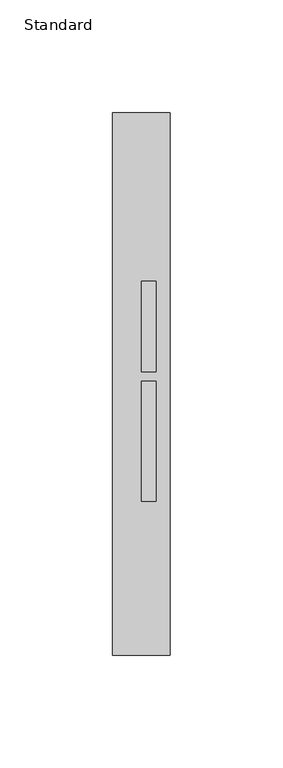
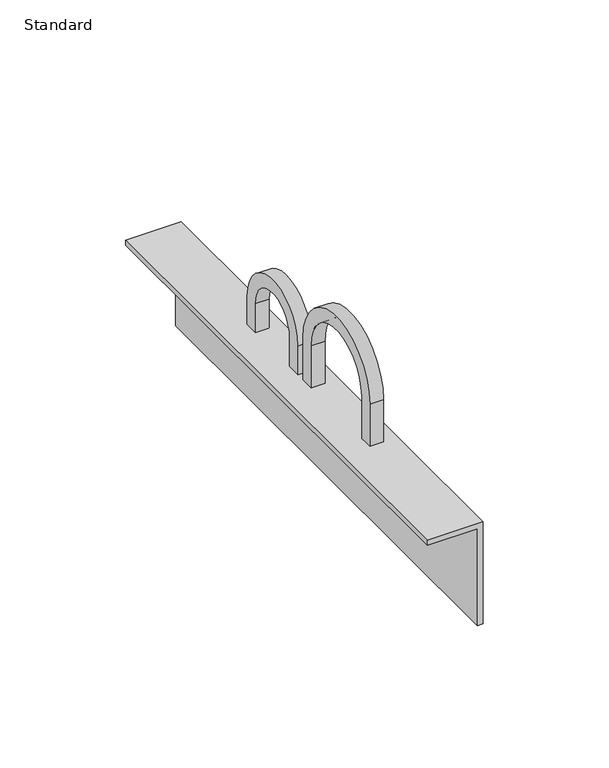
"""IFC4 building model written with IfcOpenShell, lengths in millimetres: cable carrier fitting geometry, End-Cablofil-Wire_Mesh_Cable_Tray-To_Conduit : Standard."""

from ifc_helpers import new_model, si_unit, point, frame, frame_2d, origin, place, context, project, spatial, polyline, circle_curve, trimmed, segment, composite_curve, outline, extrude, source, transform, mapped, element, save


def standard_2a561b38(model_context):
    return source(origin(), model_context, "Body", "SweptSolid", [
        extrude(outline(composite_curve([segment(trimmed(circle_curve(frame_2d((-25.4, -2.7178)), 26.543), [point((-51.943, -2.7178))], [point((1.143, -2.7178))], False, "CARTESIAN"), True, "CONTINUOUS"), segment(polyline([(1.143, -2.7178), (1.143, -25.4), (-5.207, -25.4), (-5.207, -2.7178)]), True, "CONTINUOUS"), segment(trimmed(circle_curve(frame_2d((-25.4, -2.7178)), 20.193), [point((-5.207, -2.7178))], [point((-45.593, -2.7178))], True, "CARTESIAN"), True, "CONTINUOUS"), segment(polyline([(-45.593, -2.7178), (-45.593, -25.4), (-51.943, -25.4), (-51.943, -2.7178)]), True, "CONTINUOUS")], self_intersect=False)), frame((-10.2108, 0.0, 0.0), z_axis=(1.0, 0.0, 0.0), x_axis=(0.0, 1.0, 0.0)), (0.0, 0.0, 1.0), 6.35),
        extrude(outline(composite_curve([segment(trimmed(circle_curve(frame_2d((25.4, -9.1948)), 20.066), [point((5.334, -9.1948))], [point((45.466, -9.1948))], False, "CARTESIAN"), True, "CONTINUOUS"), segment(polyline([(45.466, -9.1948), (45.466, -25.4), (39.116, -25.4), (39.116, -9.1948)]), True, "CONTINUOUS"), segment(trimmed(circle_curve(frame_2d((25.4, -9.1948)), 13.716), [point((39.116, -9.1948))], [point((11.684, -9.1948))], True, "CARTESIAN"), True, "CONTINUOUS"), segment(polyline([(11.684, -9.1948), (11.684, -25.4), (5.334, -25.4), (5.334, -9.1948)]), True, "CONTINUOUS")], self_intersect=False)), frame((-10.2108, 0.0, 0.0), z_axis=(1.0, 0.0, 0.0), x_axis=(0.0, 1.0, 0.0)), (0.0, 0.0, 1.0), 6.35),
        extrude(outline(polyline([(-22.9108, -23.0124), (-25.4, -23.0124), (-25.4, 0.0), (-72.4154, 0.0), (-72.4154, 2.4892), (-22.9108, 2.4892), (-22.9108, -23.0124)])), frame((0.0, -120.0546875, 0.0), z_axis=(0.0, 1.0, 0.0), x_axis=(0.0, 0.0, 1.0)), (0.0, 0.0, 1.0), 240.109375),
    ])


if __name__ == "__main__":
    model = new_model("IFC4")
    model_context = context("Model", 3, world=origin())
    ifc_project = project(units=[si_unit("LENGTHUNIT", "METRE", prefix="MILLI")], contexts=[model_context])
    site = spatial("IfcSite", under=ifc_project)
    building = spatial("IfcBuilding", under=site)
    placement = place(None, origin())
    standard_shape = standard_2a561b38(model_context)
    element("IfcCableCarrierFitting", 1, ObjectType="End-Cablofil-Wire_Mesh_Cable_Tray-To_Conduit : Standard", at=placement, inside=building, context=model_context, shape_type="MappedRepresentation", body=[
        mapped(standard_shape, transform((0.0, 0.0, 0.0), x_axis=(1.0, 0.0, 0.0), y_axis=(0.0, 1.0, 0.0), z_axis=(0.0, 0.0, 1.0))),
    ])
    save(model, "model.ifc")
